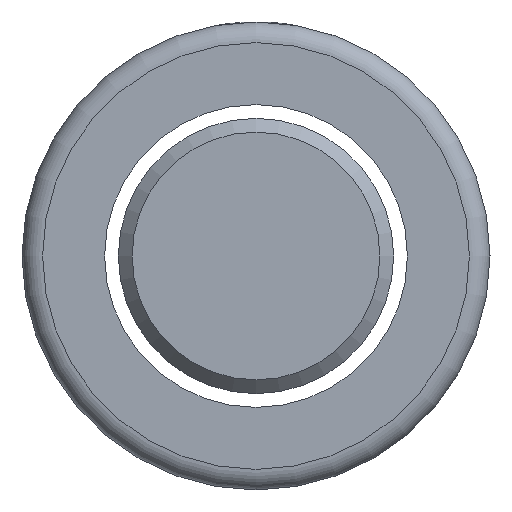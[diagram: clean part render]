
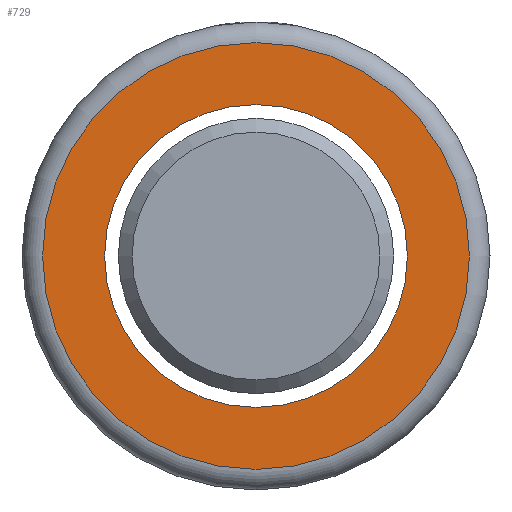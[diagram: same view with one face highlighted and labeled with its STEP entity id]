
A CAD part, left-side view. The second image highlights one B-rep face of the part: STEP entity #729.
In plain terms, the highlighted planar face has unit normal (-1, 0, 0).
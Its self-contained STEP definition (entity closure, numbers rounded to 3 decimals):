
#7 = EDGE_LOOP ( 'NONE', ( #263 ) ) ;
#15 = VERTEX_POINT ( 'NONE', #172 ) ;
#66 = CARTESIAN_POINT ( 'NONE',  ( -67.5, 15.5, 0. ) ) ;
#67 = CARTESIAN_POINT ( 'NONE',  ( -67.5, 0., 0. ) ) ;
#69 = AXIS2_PLACEMENT_3D ( 'NONE', #67, #301, #363 ) ;
#141 = EDGE_CURVE ( 'NONE', #15, #15, #725, .T. ) ;
#172 = CARTESIAN_POINT ( 'NONE',  ( -67.5, 11., 0. ) ) ;
#263 = ORIENTED_EDGE ( 'NONE', *, *, #141, .T. ) ;
#268 = DIRECTION ( 'NONE',  ( 1., 0., 0. ) ) ;
#287 = FACE_OUTER_BOUND ( 'NONE', #521, .T. ) ;
#301 = DIRECTION ( 'NONE',  ( 1., 0., 0. ) ) ;
#336 = DIRECTION ( 'NONE',  ( 0., 1., 0. ) ) ;
#346 = AXIS2_PLACEMENT_3D ( 'NONE', #575, #268, #336 ) ;
#361 = DIRECTION ( 'NONE',  ( 1., 0., 0. ) ) ;
#363 = DIRECTION ( 'NONE',  ( 0., 1., 0. ) ) ;
#411 = VERTEX_POINT ( 'NONE', #66 ) ;
#444 = ORIENTED_EDGE ( 'NONE', *, *, #642, .F. ) ;
#483 = DIRECTION ( 'NONE',  ( 0., -1., 0. ) ) ;
#521 = EDGE_LOOP ( 'NONE', ( #444 ) ) ;
#527 = FACE_BOUND ( 'NONE', #7, .T. ) ;
#535 = CARTESIAN_POINT ( 'NONE',  ( -67.5, 13.25, 0. ) ) ;
#550 = AXIS2_PLACEMENT_3D ( 'NONE', #535, #361, #483 ) ;
#575 = CARTESIAN_POINT ( 'NONE',  ( -67.5, 0., 0. ) ) ;
#602 = PLANE ( 'NONE',  #550 ) ;
#642 = EDGE_CURVE ( 'NONE', #411, #411, #676, .T. ) ;
#676 = CIRCLE ( 'NONE', #346, 15.5 ) ;
#725 = CIRCLE ( 'NONE', #69, 11. ) ;
#729 = ADVANCED_FACE ( 'NONE', ( #527, #287 ), #602, .F. ) ;
